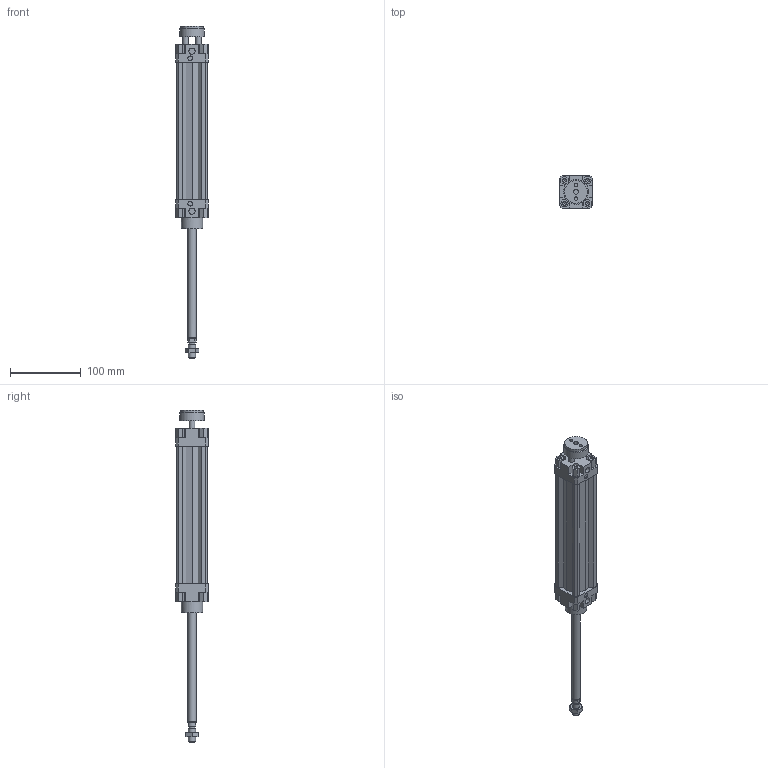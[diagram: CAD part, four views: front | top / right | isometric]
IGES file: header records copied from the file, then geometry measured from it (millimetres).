
Global section: file name: 132#_032_0150_02; native system: Autodesk Inventor 2014; preprocessor: unknown; author: A. Manieri; date: 20161006.154700; units: millimetre
Bounding box: 46 x 46 x 468 mm (x, y, z)
Volume: 312815 mm3; surface area: 110332.9 mm2
Topology: 3 solids, 3 shells, 227 faces, 605 edges, 405 vertices
Faces by surface type: bspline 227
